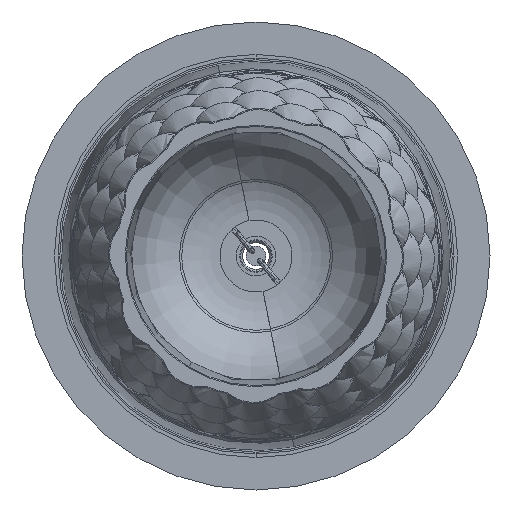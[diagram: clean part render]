
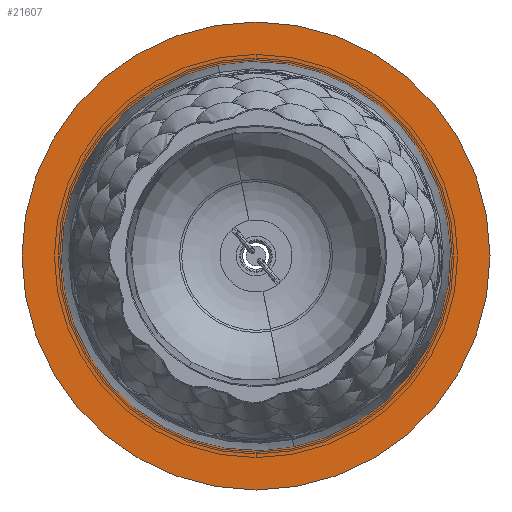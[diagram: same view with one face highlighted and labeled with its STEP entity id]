
A CAD part, front view. The second image highlights one B-rep face of the part: STEP entity #21607.
In plain terms, the highlighted planar face has unit normal (0, -1, 0).
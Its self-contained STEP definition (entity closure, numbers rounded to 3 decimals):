
#452 = CARTESIAN_POINT ( 'NONE',  ( 0., -1.2, 0. ) ) ;
#470 = EDGE_CURVE ( 'NONE', #22622, #6138, #17002, .T. ) ;
#670 = EDGE_CURVE ( 'NONE', #5387, #13908, #9174, .T. ) ;
#1867 = DIRECTION ( 'NONE',  ( 0., 0., 1. ) ) ;
#2029 = EDGE_CURVE ( 'NONE', #13908, #5387, #11810, .T. ) ;
#2223 = CARTESIAN_POINT ( 'NONE',  ( 0., -1.2, 0. ) ) ;
#2527 = DIRECTION ( 'NONE',  ( 0., 1., 0. ) ) ;
#3519 = AXIS2_PLACEMENT_3D ( 'NONE', #452, #2527, #8774 ) ;
#4140 = ORIENTED_EDGE ( 'NONE', *, *, #670, .F. ) ;
#4413 = FACE_OUTER_BOUND ( 'NONE', #5539, .T. ) ;
#5387 = VERTEX_POINT ( 'NONE', #14204 ) ;
#5493 = CARTESIAN_POINT ( 'NONE',  ( 0., -1.2, 0. ) ) ;
#5539 = EDGE_LOOP ( 'NONE', ( #20221, #4140 ) ) ;
#5829 = EDGE_CURVE ( 'NONE', #6138, #22622, #9730, .T. ) ;
#6138 = VERTEX_POINT ( 'NONE', #24318 ) ;
#6621 = EDGE_LOOP ( 'NONE', ( #24029, #13186 ) ) ;
#8204 = DIRECTION ( 'NONE',  ( 0., 0., 1. ) ) ;
#8774 = DIRECTION ( 'NONE',  ( 0., 0., 1. ) ) ;
#9174 = CIRCLE ( 'NONE', #24391, 65. ) ;
#9730 = CIRCLE ( 'NONE', #15835, 5.15 ) ;
#10543 = DIRECTION ( 'NONE',  ( 0., 0., 1. ) ) ;
#11603 = AXIS2_PLACEMENT_3D ( 'NONE', #2223, #16805, #10543 ) ;
#11810 = CIRCLE ( 'NONE', #12228, 65. ) ;
#12228 = AXIS2_PLACEMENT_3D ( 'NONE', #17779, #13424, #19679 ) ;
#13186 = ORIENTED_EDGE ( 'NONE', *, *, #5829, .T. ) ;
#13424 = DIRECTION ( 'NONE',  ( 0., 1., 0. ) ) ;
#13908 = VERTEX_POINT ( 'NONE', #25381 ) ;
#14204 = CARTESIAN_POINT ( 'NONE',  ( 0., -1.2, -65. ) ) ;
#15433 = CARTESIAN_POINT ( 'NONE',  ( 0., -1.2, 5.15 ) ) ;
#15835 = AXIS2_PLACEMENT_3D ( 'NONE', #18620, #20534, #1867 ) ;
#16805 = DIRECTION ( 'NONE',  ( 0., 1., 0. ) ) ;
#17002 = CIRCLE ( 'NONE', #3519, 5.15 ) ;
#17779 = CARTESIAN_POINT ( 'NONE',  ( 0., -1.2, 0. ) ) ;
#18620 = CARTESIAN_POINT ( 'NONE',  ( 0., -1.2, 0. ) ) ;
#19679 = DIRECTION ( 'NONE',  ( 0., 0., 1. ) ) ;
#20221 = ORIENTED_EDGE ( 'NONE', *, *, #2029, .F. ) ;
#20534 = DIRECTION ( 'NONE',  ( 0., 1., 0. ) ) ;
#21607 = ADVANCED_FACE ( 'NONE', ( #23201, #4413 ), #22930, .F. ) ;
#22622 = VERTEX_POINT ( 'NONE', #15433 ) ;
#22930 = PLANE ( 'NONE',  #11603 ) ;
#23201 = FACE_BOUND ( 'NONE', #6621, .T. ) ;
#24029 = ORIENTED_EDGE ( 'NONE', *, *, #470, .T. ) ;
#24318 = CARTESIAN_POINT ( 'NONE',  ( 0., -1.2, -5.15 ) ) ;
#24391 = AXIS2_PLACEMENT_3D ( 'NONE', #5493, #24410, #8204 ) ;
#24410 = DIRECTION ( 'NONE',  ( 0., 1., 0. ) ) ;
#25381 = CARTESIAN_POINT ( 'NONE',  ( 0., -1.2, 65. ) ) ;
